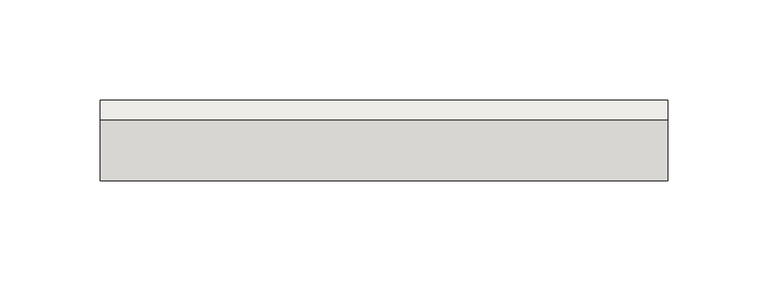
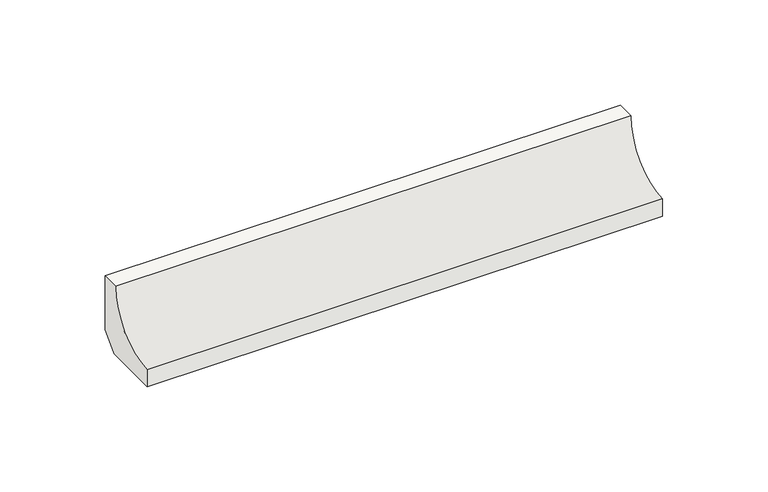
"""IFC4 building model written with IfcOpenShell, lengths in millimetres: slab geometry, ROSA GRES_112 : Pieza 112_Aqua_Marino_Liso."""

from ifc_helpers import new_model, si_unit, point, frame, frame_2d, origin, place, context, project, spatial, polyline, circle_curve, trimmed, segment, composite_curve, outline, extrude, source, transform, mapped, element, save


def slab_e6a2a24a(model_context):
    return source(origin(), model_context, "Body", "SweptSolid", [
        extrude(outline(composite_curve([segment(polyline([(0.0, 8.7114978), (-8.7114978, 0.0), (-40.0, 0.0), (-40.0, 9.9734114)]), True, "CONTINUOUS"), segment(trimmed(circle_curve(frame_2d((-39.9955547, 39.9955547)), 30.0221435), [point((-40.0, 9.9734114))], [point((-9.9734114, 40.0))], True, "CARTESIAN"), True, "CONTINUOUS"), segment(polyline([(-9.9734114, 40.0), (0.0, 40.0), (0.0, 8.7114978)]), True, "CONTINUOUS")], self_intersect=False)), frame((0.0, 0.0, 0.0), z_axis=(1.0, 0.0, 0.0), x_axis=(0.0, 1.0, 0.0)), (0.0, 0.0, 1.0), 282.8125),
    ])


if __name__ == "__main__":
    model = new_model("IFC4")
    model_context = context("Model", 3, world=origin())
    ifc_project = project(units=[si_unit("LENGTHUNIT", "METRE", prefix="MILLI")], contexts=[model_context])
    site = spatial("IfcSite", under=ifc_project)
    building = spatial("IfcBuilding", under=site)
    placement = place(None, origin())
    slab_shape = slab_e6a2a24a(model_context)
    element("IfcSlab", 1, ObjectType="ROSA GRES_112 : Pieza 112_Aqua_Marino_Liso", at=placement, inside=building, context=model_context, shape_type="MappedRepresentation", body=[
        mapped(slab_shape, transform((0.0, 0.0, 0.0), x_axis=(1.0, 0.0, 0.0), y_axis=(0.0, 1.0, 0.0), z_axis=(0.0, 0.0, 1.0))),
    ])
    save(model, "model.ifc")
